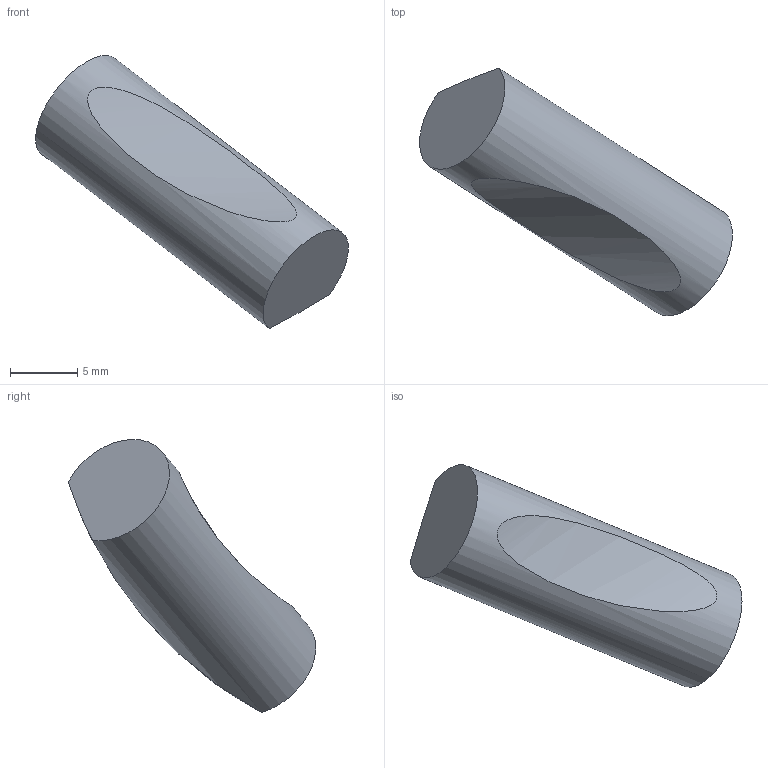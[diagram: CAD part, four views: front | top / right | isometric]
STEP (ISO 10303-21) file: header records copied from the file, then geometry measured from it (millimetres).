
FILE_DESCRIPTION(('Open CASCADE Model'),'2;1');
FILE_NAME('Open CASCADE Shape Model','2026-11-24T19:57:39',('Author'),( 'Open CASCADE'),'Open CASCADE STEP processor 7.8','Open CASCADE 7.8' ,'Unknown');
FILE_SCHEMA(('AUTOMOTIVE_DESIGN { 1 0 10303 214 1 1 1 1 }'));
Length unit declared in the file: millimetre
Products named in the file (1): Open CASCADE STEP translator 7.8 85
Bounding box: 23.32 x 18.45 x 20.36 mm (x, y, z)
Volume: 1447.8 mm3; surface area: 786.1 mm2
Topology: 1 solids, 1 shells, 6 faces, 9 edges, 6 vertices
Faces by surface type: cylinder 4, plane 2
Full cylindrical faces by diameter (mm): 9 x1
Entity records: 825 total; most frequent: CARTESIAN_POINT 649, DIRECTION 22, ORIENTED_EDGE 18, PCURVE 18, DEFINITIONAL_REPRESENTATION 18, B_SPLINE_CURVE_WITH_KNOTS 17, AXIS2_PLACEMENT_3D 9, EDGE_CURVE 9
